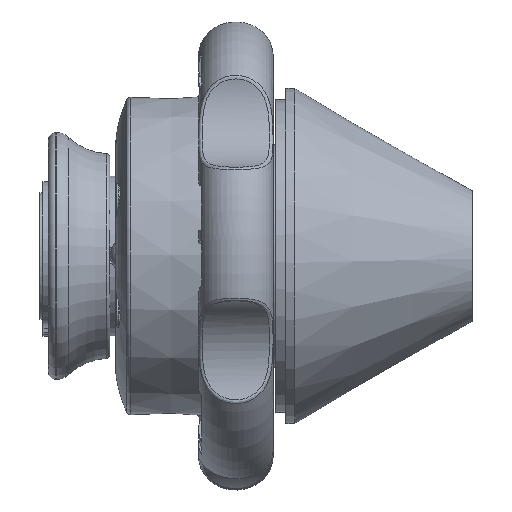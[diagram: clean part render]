
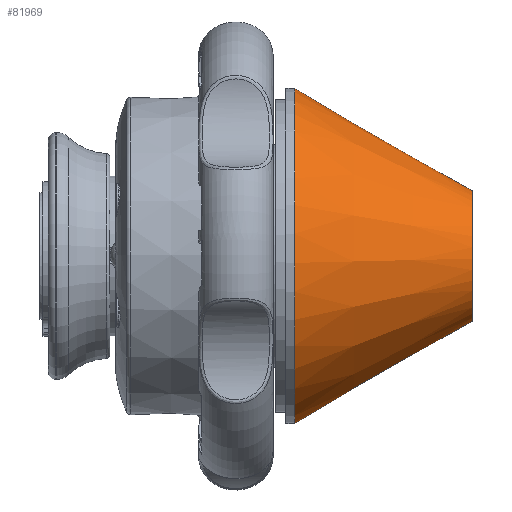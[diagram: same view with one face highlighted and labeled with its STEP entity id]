
A CAD part, top view. The second image highlights one B-rep face of the part: STEP entity #81969.
In plain terms, the highlighted conical face has half-angle 30 degrees and reference radius 45 mm.
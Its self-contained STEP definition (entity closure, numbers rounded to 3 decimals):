
#2157 = CIRCLE ( 'NONE', #64841, 45. ) ;
#2983 = CARTESIAN_POINT ( 'NONE',  ( 73.165, -6.682, 16.174 ) ) ;
#5281 = AXIS2_PLACEMENT_3D ( 'NONE', #22761, #36306, #90215 ) ;
#7313 = CARTESIAN_POINT ( 'NONE',  ( 25.534, -17.182, 41.59 ) ) ;
#12358 = EDGE_LOOP ( 'NONE', ( #93954 ) ) ;
#13295 = CIRCLE ( 'NONE', #5281, 17.5 ) ;
#22761 = CARTESIAN_POINT ( 'NONE',  ( 73.165, 0., 0. ) ) ;
#25542 = VERTEX_POINT ( 'NONE', #7313 ) ;
#26477 = DIRECTION ( 'NONE',  ( -1., 0., 0. ) ) ;
#33479 = DIRECTION ( 'NONE',  ( 0., -0.382, 0.924 ) ) ;
#34550 = ORIENTED_EDGE ( 'NONE', *, *, #69223, .T. ) ;
#34636 = EDGE_LOOP ( 'NONE', ( #34550 ) ) ;
#36306 = DIRECTION ( 'NONE',  ( -1., 0., 0. ) ) ;
#40479 = CARTESIAN_POINT ( 'NONE',  ( 25.534, 0., 0. ) ) ;
#48668 = VERTEX_POINT ( 'NONE', #2983 ) ;
#50560 = CONICAL_SURFACE ( 'NONE', #50645, 45., 0.524 ) ;
#50645 = AXIS2_PLACEMENT_3D ( 'NONE', #76775, #26477, #57106 ) ;
#57106 = DIRECTION ( 'NONE',  ( 0., -0.382, 0.924 ) ) ;
#64841 = AXIS2_PLACEMENT_3D ( 'NONE', #40479, #78819, #33479 ) ;
#68775 = FACE_BOUND ( 'NONE', #34636, .T. ) ;
#69223 = EDGE_CURVE ( 'NONE', #48668, #48668, #13295, .T. ) ;
#76775 = CARTESIAN_POINT ( 'NONE',  ( 25.534, 0., 0. ) ) ;
#78816 = FACE_OUTER_BOUND ( 'NONE', #12358, .T. ) ;
#78819 = DIRECTION ( 'NONE',  ( 1., 0., 0. ) ) ;
#80515 = EDGE_CURVE ( 'NONE', #25542, #25542, #2157, .T. ) ;
#81969 = ADVANCED_FACE ( 'NONE', ( #78816, #68775 ), #50560, .T. ) ;
#90215 = DIRECTION ( 'NONE',  ( 0., -0.382, 0.924 ) ) ;
#93954 = ORIENTED_EDGE ( 'NONE', *, *, #80515, .T. ) ;
